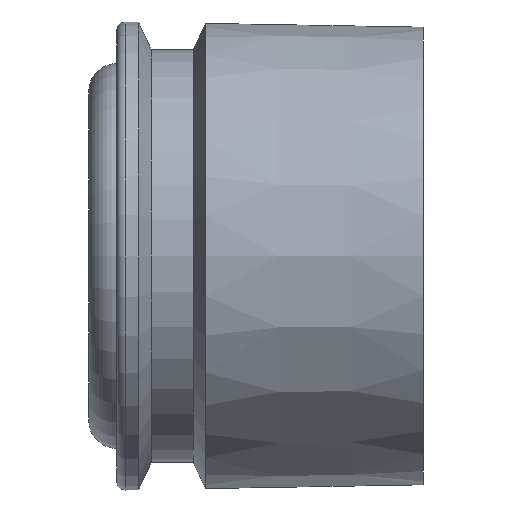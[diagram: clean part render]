
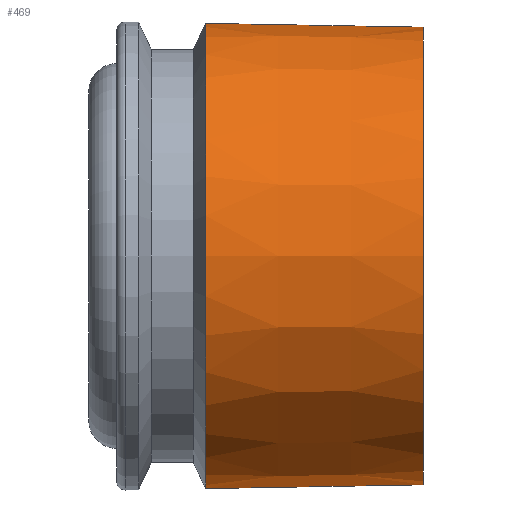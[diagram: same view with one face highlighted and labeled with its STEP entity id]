
A CAD part, left-side view. The second image highlights one B-rep face of the part: STEP entity #469.
In plain terms, the highlighted conical face has half-angle 1 degrees and reference radius 8.344 mm.
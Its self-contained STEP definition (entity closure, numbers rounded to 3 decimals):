
#21 = ORIENTED_EDGE ( 'NONE', *, *, #464, .F. ) ;
#50 = DIRECTION ( 'NONE',  ( 0., 0., -1. ) ) ;
#54 = EDGE_CURVE ( 'NONE', #698, #173, #602, .T. ) ;
#99 = DIRECTION ( 'NONE',  ( 0., -1., 0. ) ) ;
#103 = EDGE_CURVE ( 'NONE', #355, #523, #668, .T. ) ;
#104 = DIRECTION ( 'NONE',  ( 0., 0., -1. ) ) ;
#112 = CARTESIAN_POINT ( 'NONE',  ( 0., 7.806, -8.344 ) ) ;
#160 = VECTOR ( 'NONE', #498, 1000. ) ;
#173 = VERTEX_POINT ( 'NONE', #327 ) ;
#178 = CARTESIAN_POINT ( 'NONE',  ( 0., 0., -8.208 ) ) ;
#191 = EDGE_LOOP ( 'NONE', ( #424, #21, #672, #636 ) ) ;
#273 = CARTESIAN_POINT ( 'NONE',  ( 0., 7.806, 0. ) ) ;
#288 = DIRECTION ( 'NONE',  ( 0., 0., 1. ) ) ;
#289 = AXIS2_PLACEMENT_3D ( 'NONE', #387, #99, #50 ) ;
#319 = CARTESIAN_POINT ( 'NONE',  ( 0., 7.806, 8.344 ) ) ;
#327 = CARTESIAN_POINT ( 'NONE',  ( 0., 7.806, 8.344 ) ) ;
#341 = DIRECTION ( 'NONE',  ( 0., 1., -0.017 ) ) ;
#350 = CIRCLE ( 'NONE', #289, 8.208 ) ;
#355 = VERTEX_POINT ( 'NONE', #178 ) ;
#387 = CARTESIAN_POINT ( 'NONE',  ( 0., 0., 0. ) ) ;
#392 = DIRECTION ( 'NONE',  ( 0., 1., 0. ) ) ;
#411 = AXIS2_PLACEMENT_3D ( 'NONE', #652, #556, #104 ) ;
#424 = ORIENTED_EDGE ( 'NONE', *, *, #103, .F. ) ;
#442 = EDGE_CURVE ( 'NONE', #173, #523, #550, .T. ) ;
#464 = EDGE_CURVE ( 'NONE', #698, #355, #350, .T. ) ;
#469 = ADVANCED_FACE ( 'NONE', ( #711 ), #682, .T. ) ;
#498 = DIRECTION ( 'NONE',  ( 0., 1., 0.017 ) ) ;
#523 = VERTEX_POINT ( 'NONE', #112 ) ;
#550 = CIRCLE ( 'NONE', #411, 8.344 ) ;
#556 = DIRECTION ( 'NONE',  ( 0., -1., 0. ) ) ;
#602 = LINE ( 'NONE', #319, #160 ) ;
#617 = CARTESIAN_POINT ( 'NONE',  ( 0., 7.806, -8.344 ) ) ;
#635 = CARTESIAN_POINT ( 'NONE',  ( 0., 0., 8.208 ) ) ;
#636 = ORIENTED_EDGE ( 'NONE', *, *, #442, .T. ) ;
#648 = VECTOR ( 'NONE', #341, 1000. ) ;
#652 = CARTESIAN_POINT ( 'NONE',  ( 0., 7.806, 0. ) ) ;
#664 = AXIS2_PLACEMENT_3D ( 'NONE', #273, #392, #288 ) ;
#668 = LINE ( 'NONE', #617, #648 ) ;
#672 = ORIENTED_EDGE ( 'NONE', *, *, #54, .T. ) ;
#682 = CONICAL_SURFACE ( 'NONE', #664, 8.344, 0.017 ) ;
#698 = VERTEX_POINT ( 'NONE', #635 ) ;
#711 = FACE_OUTER_BOUND ( 'NONE', #191, .T. ) ;
